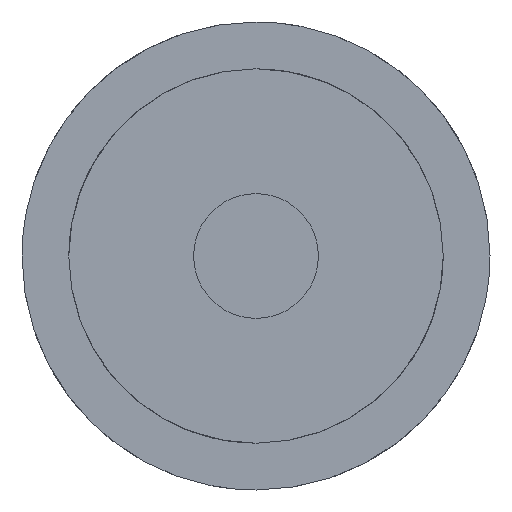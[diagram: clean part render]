
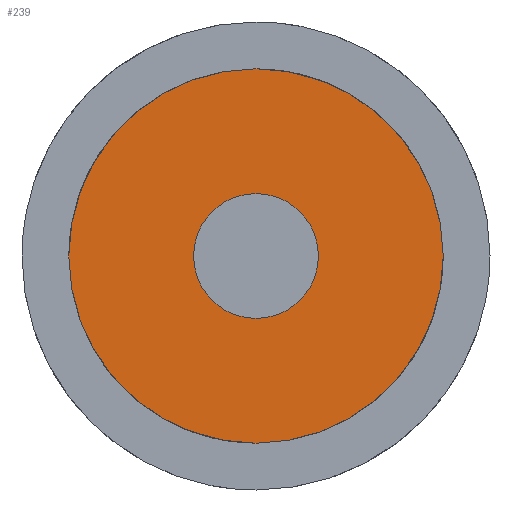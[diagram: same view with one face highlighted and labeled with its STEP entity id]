
A CAD part, front view. The second image highlights one B-rep face of the part: STEP entity #239.
In plain terms, the highlighted planar face has unit normal (0, -1, 0).
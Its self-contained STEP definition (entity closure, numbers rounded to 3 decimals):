
#63=CARTESIAN_POINT('Vertex',(0.,-237.,6.)) ;
#66=CARTESIAN_POINT('Axis2P3D Location',(0.,-237.,0.)) ;
#70=CARTESIAN_POINT('Vertex',(-6.,-237.,0.)) ;
#73=CARTESIAN_POINT('Axis2P3D Location',(0.,-237.,0.)) ;
#77=CARTESIAN_POINT('Vertex',(0.,-237.,-6.)) ;
#113=CARTESIAN_POINT('Axis2P3D Location',(0.,-237.,0.)) ;
#117=CARTESIAN_POINT('Vertex',(6.,-237.,0.)) ;
#120=CARTESIAN_POINT('Axis2P3D Location',(0.,-237.,0.)) ;
#146=CARTESIAN_POINT('Axis2P3D Location',(18.,-237.,0.)) ;
#152=CARTESIAN_POINT('Control Point',(18.,-237.,0.)) ;
#153=CARTESIAN_POINT('Control Point',(18.,-237.,1.663)) ;
#154=CARTESIAN_POINT('Control Point',(17.808,-237.,3.326)) ;
#155=CARTESIAN_POINT('Control Point',(17.424,-237.,4.959)) ;
#156=CARTESIAN_POINT('Control Point',(16.286,-237.,8.107)) ;
#157=CARTESIAN_POINT('Control Point',(14.46,-237.,10.913)) ;
#158=CARTESIAN_POINT('Control Point',(13.388,-237.,12.204)) ;
#159=CARTESIAN_POINT('Control Point',(10.967,-237.,14.515)) ;
#160=CARTESIAN_POINT('Control Point',(8.082,-237.,16.213)) ;
#161=CARTESIAN_POINT('Control Point',(6.547,-237.,16.891)) ;
#162=CARTESIAN_POINT('Control Point',(4.307,-237.,17.585)) ;
#163=CARTESIAN_POINT('Control Point',(1.998,-237.,17.907)) ;
#164=CARTESIAN_POINT('Control Point',(1.333,-237.,17.969)) ;
#165=CARTESIAN_POINT('Control Point',(0.667,-237.,18.)) ;
#166=CARTESIAN_POINT('Control Point',(0.,-237.,18.)) ;
#167=CARTESIAN_POINT('Vertex',(18.,-237.,0.)) ;
#169=CARTESIAN_POINT('Vertex',(0.,-237.,18.)) ;
#173=CARTESIAN_POINT('Control Point',(0.,-237.,18.)) ;
#174=CARTESIAN_POINT('Control Point',(-0.996,-237.,18.)) ;
#175=CARTESIAN_POINT('Control Point',(-1.992,-237.,17.931)) ;
#176=CARTESIAN_POINT('Control Point',(-2.982,-237.,17.793)) ;
#177=CARTESIAN_POINT('Control Point',(-5.59,-237.,17.244)) ;
#178=CARTESIAN_POINT('Control Point',(-8.064,-237.,16.222)) ;
#179=CARTESIAN_POINT('Control Point',(-9.53,-237.,15.406)) ;
#180=CARTESIAN_POINT('Control Point',(-12.248,-237.,13.451)) ;
#181=CARTESIAN_POINT('Control Point',(-14.448,-237.,10.928)) ;
#182=CARTESIAN_POINT('Control Point',(-15.397,-237.,9.545)) ;
#183=CARTESIAN_POINT('Control Point',(-16.804,-237.,6.877)) ;
#184=CARTESIAN_POINT('Control Point',(-17.63,-237.,3.984)) ;
#185=CARTESIAN_POINT('Control Point',(-17.877,-237.,2.666)) ;
#186=CARTESIAN_POINT('Control Point',(-18.,-237.,1.333)) ;
#187=CARTESIAN_POINT('Control Point',(-18.,-237.,0.)) ;
#188=CARTESIAN_POINT('Vertex',(-18.,-237.,0.)) ;
#192=CARTESIAN_POINT('Control Point',(-18.,-237.,0.)) ;
#193=CARTESIAN_POINT('Control Point',(-18.,-237.,-1.663)) ;
#194=CARTESIAN_POINT('Control Point',(-17.808,-237.,-3.326)) ;
#195=CARTESIAN_POINT('Control Point',(-17.424,-237.,-4.959)) ;
#196=CARTESIAN_POINT('Control Point',(-16.286,-237.,-8.107)) ;
#197=CARTESIAN_POINT('Control Point',(-14.46,-237.,-10.913)) ;
#198=CARTESIAN_POINT('Control Point',(-13.388,-237.,-12.204)) ;
#199=CARTESIAN_POINT('Control Point',(-10.967,-237.,-14.515)) ;
#200=CARTESIAN_POINT('Control Point',(-8.082,-237.,-16.213)) ;
#201=CARTESIAN_POINT('Control Point',(-6.547,-237.,-16.891)) ;
#202=CARTESIAN_POINT('Control Point',(-4.307,-237.,-17.585)) ;
#203=CARTESIAN_POINT('Control Point',(-1.998,-237.,-17.907)) ;
#204=CARTESIAN_POINT('Control Point',(-1.333,-237.,-17.969)) ;
#205=CARTESIAN_POINT('Control Point',(-0.667,-237.,-18.)) ;
#206=CARTESIAN_POINT('Control Point',(0.,-237.,-18.)) ;
#207=CARTESIAN_POINT('Vertex',(0.,-237.,-18.)) ;
#211=CARTESIAN_POINT('Control Point',(0.,-237.,-18.)) ;
#212=CARTESIAN_POINT('Control Point',(0.996,-237.,-18.)) ;
#213=CARTESIAN_POINT('Control Point',(1.992,-237.,-17.931)) ;
#214=CARTESIAN_POINT('Control Point',(2.982,-237.,-17.793)) ;
#215=CARTESIAN_POINT('Control Point',(5.59,-237.,-17.244)) ;
#216=CARTESIAN_POINT('Control Point',(8.064,-237.,-16.222)) ;
#217=CARTESIAN_POINT('Control Point',(9.53,-237.,-15.406)) ;
#218=CARTESIAN_POINT('Control Point',(12.248,-237.,-13.451)) ;
#219=CARTESIAN_POINT('Control Point',(14.448,-237.,-10.928)) ;
#220=CARTESIAN_POINT('Control Point',(15.397,-237.,-9.545)) ;
#221=CARTESIAN_POINT('Control Point',(16.804,-237.,-6.877)) ;
#222=CARTESIAN_POINT('Control Point',(17.63,-237.,-3.984)) ;
#223=CARTESIAN_POINT('Control Point',(17.877,-237.,-2.666)) ;
#224=CARTESIAN_POINT('Control Point',(18.,-237.,-1.333)) ;
#225=CARTESIAN_POINT('Control Point',(18.,-237.,0.)) ;
#67=DIRECTION('Axis2P3D Direction',(0.,1.,0.)) ;
#74=DIRECTION('Axis2P3D Direction',(0.,1.,0.)) ;
#114=DIRECTION('Axis2P3D Direction',(0.,1.,0.)) ;
#121=DIRECTION('Axis2P3D Direction',(0.,1.,0.)) ;
#147=DIRECTION('Axis2P3D Direction',(0.,1.,0.)) ;
#148=DIRECTION('Axis2P3D XDirection',(0.,-0.,1.)) ;
#68=AXIS2_PLACEMENT_3D('Circle Axis2P3D',#66,#67,$) ;
#75=AXIS2_PLACEMENT_3D('Circle Axis2P3D',#73,#74,$) ;
#115=AXIS2_PLACEMENT_3D('Circle Axis2P3D',#113,#114,$) ;
#122=AXIS2_PLACEMENT_3D('Circle Axis2P3D',#120,#121,$) ;
#149=AXIS2_PLACEMENT_3D('Plane Axis2P3D',#146,#147,#148) ;
#228=ORIENTED_EDGE('',*,*,#171,.T.) ;
#229=ORIENTED_EDGE('',*,*,#190,.T.) ;
#230=ORIENTED_EDGE('',*,*,#209,.T.) ;
#231=ORIENTED_EDGE('',*,*,#226,.T.) ;
#234=ORIENTED_EDGE('',*,*,#119,.F.) ;
#235=ORIENTED_EDGE('',*,*,#79,.F.) ;
#236=ORIENTED_EDGE('',*,*,#72,.F.) ;
#237=ORIENTED_EDGE('',*,*,#124,.F.) ;
#238=FACE_BOUND('',#233,.T.) ;
#239=ADVANCED_FACE('D995-3',(#232,#238),#150,.F.) ;
#151=B_SPLINE_CURVE_WITH_KNOTS('',5,(#152,#153,#154,#155,#156,#157,#158,#159,#160,#161,#162,#163,#164,#165,#166),.UNSPECIFIED.,.F.,.U.,(6,3,3,3,6),(0.,11.757,23.515,35.272,39.986),.UNSPECIFIED.) ;
#172=B_SPLINE_CURVE_WITH_KNOTS('',5,(#173,#174,#175,#176,#177,#178,#179,#180,#181,#182,#183,#184,#185,#186,#187),.UNSPECIFIED.,.F.,.U.,(6,3,3,3,6),(39.986,47.03,58.787,70.545,79.971),.UNSPECIFIED.) ;
#191=B_SPLINE_CURVE_WITH_KNOTS('',5,(#192,#193,#194,#195,#196,#197,#198,#199,#200,#201,#202,#203,#204,#205,#206),.UNSPECIFIED.,.F.,.U.,(6,3,3,3,6),(0.,11.757,23.515,35.272,39.986),.UNSPECIFIED.) ;
#210=B_SPLINE_CURVE_WITH_KNOTS('',5,(#211,#212,#213,#214,#215,#216,#217,#218,#219,#220,#221,#222,#223,#224,#225),.UNSPECIFIED.,.F.,.U.,(6,3,3,3,6),(39.986,47.03,58.787,70.545,79.971),.UNSPECIFIED.) ;
#69=CIRCLE('generated circle',#68,6.) ;
#76=CIRCLE('generated circle',#75,6.) ;
#116=CIRCLE('generated circle',#115,6.) ;
#123=CIRCLE('generated circle',#122,6.) ;
#72=EDGE_CURVE('',#64,#71,#69,.F.) ;
#79=EDGE_CURVE('',#71,#78,#76,.F.) ;
#119=EDGE_CURVE('',#78,#118,#116,.F.) ;
#124=EDGE_CURVE('',#118,#64,#123,.F.) ;
#171=EDGE_CURVE('',#168,#170,#151,.T.) ;
#190=EDGE_CURVE('',#170,#189,#172,.T.) ;
#209=EDGE_CURVE('',#189,#208,#191,.T.) ;
#226=EDGE_CURVE('',#208,#168,#210,.T.) ;
#227=EDGE_LOOP('',(#228,#229,#230,#231)) ;
#233=EDGE_LOOP('',(#234,#235,#236,#237)) ;
#232=FACE_OUTER_BOUND('',#227,.T.) ;
#150=PLANE('Plane',#149) ;
#64=VERTEX_POINT('',#63) ;
#71=VERTEX_POINT('',#70) ;
#78=VERTEX_POINT('',#77) ;
#118=VERTEX_POINT('',#117) ;
#168=VERTEX_POINT('',#167) ;
#170=VERTEX_POINT('',#169) ;
#189=VERTEX_POINT('',#188) ;
#208=VERTEX_POINT('',#207) ;
